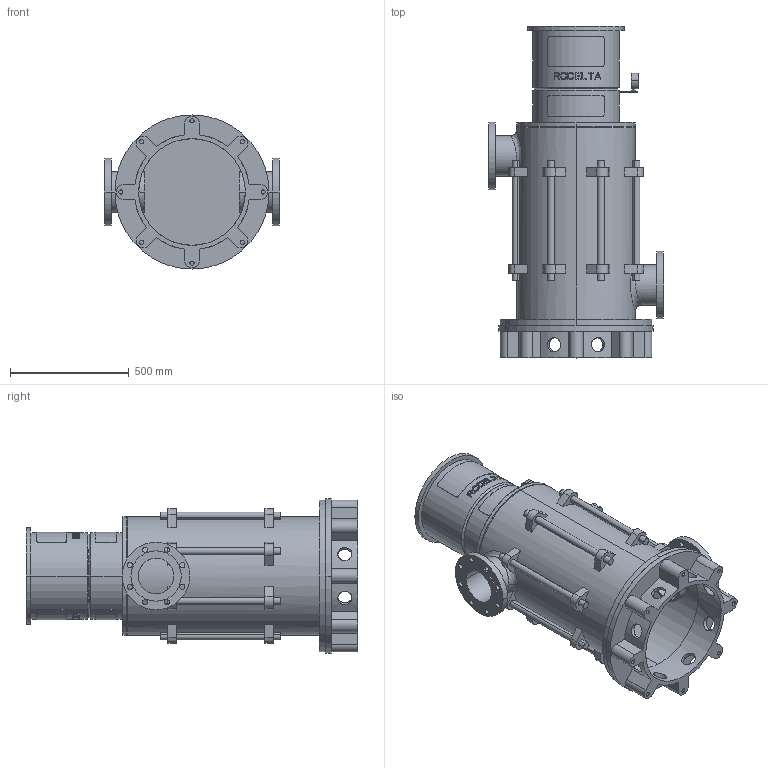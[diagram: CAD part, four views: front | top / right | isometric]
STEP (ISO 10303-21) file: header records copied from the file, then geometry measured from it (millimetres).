
FILE_DESCRIPTION((''),'2;1');
FILE_NAME('LS6_3TR_0GR_PN16_TOT_30KW','2025-10-23T11:44:20',('Lyritlocal'),(''),'CREO PARAMETRIC BY PTC INC, 2022014','CREO PARAMETRIC BY PTC INC, 2022014','');
FILE_SCHEMA(('CONFIG_CONTROL_DESIGN'));
Length unit declared in the file: millimetre
Products named in the file (1): LS6_3TR_0GR_PN16_TOT_30KW
Bounding box: 740 x 1399 x 650 mm (x, y, z)
Volume: 45458039.1 mm3; surface area: 6032130.8 mm2
Topology: 3 solids, 11 shells, 732 faces, 1889 edges, 1258 vertices
Faces by surface type: plane 438, cylinder 274, cone 12, bspline 8
Entity records: 24250 total; most frequent: CARTESIAN_POINT 6430, ORIENTED_EDGE 3746, DIRECTION 3535, EDGE_CURVE 1889, AXIS2_PLACEMENT_3D 1341, VERTEX_POINT 1258, EDGE_LOOP 895, VECTOR 853
